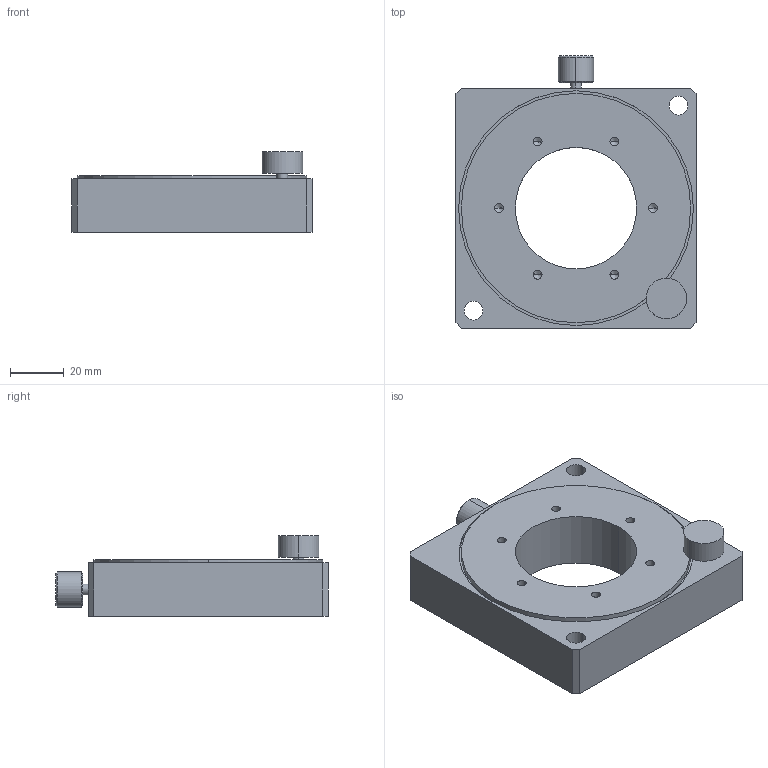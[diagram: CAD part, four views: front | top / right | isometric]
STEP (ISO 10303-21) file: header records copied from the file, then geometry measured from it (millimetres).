
FILE_DESCRIPTION (( 'STEP AP203' ), '1' );
FILE_NAME ('PT-SD205.STEP', '2022-09-03T09:11:27', ( '' ), ( '' ), 'SwSTEP 2.0', 'SolidWorks 2020', '' );
FILE_SCHEMA (( 'CONFIG_CONTROL_DESIGN' ));
Length unit declared in the file: millimetre
Products named in the file (1): PT-SD205
Bounding box: 89 x 101 x 30 mm (x, y, z)
Volume: 130970.8 mm3; surface area: 26203.7 mm2
Topology: 1 solids, 1 shells, 243 faces, 644 edges, 418 vertices
Faces by surface type: plane 116, bspline 81, cylinder 30, cone 16
Entity records: 10565 total; most frequent: CARTESIAN_POINT 5007, ORIENTED_EDGE 1264, DIRECTION 860, EDGE_CURVE 632, VERTEX_POINT 418, LINE 406, VECTOR 406, EDGE_LOOP 276
